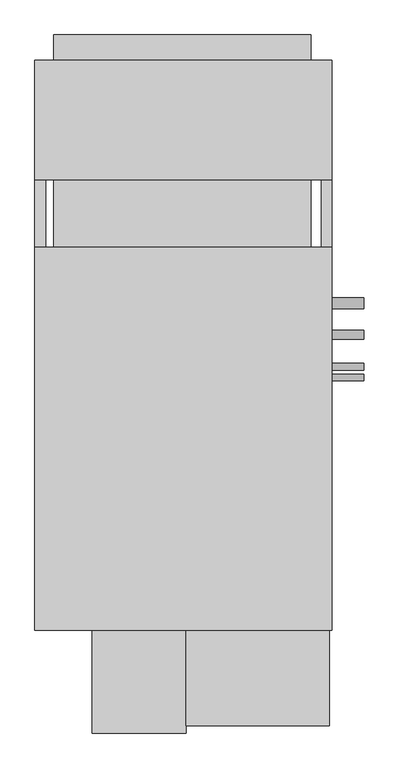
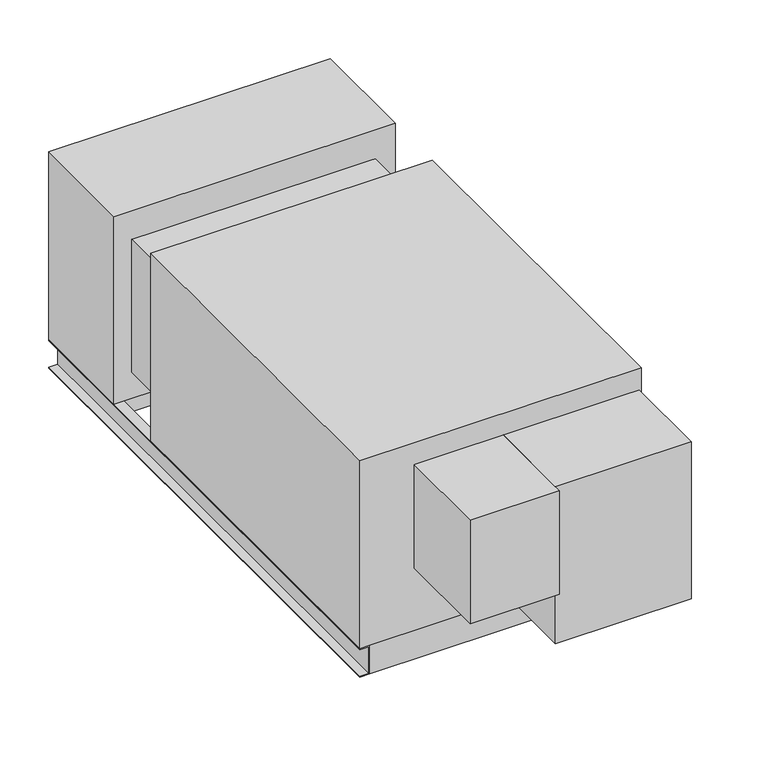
"""IFC4 building model written with IfcOpenShell, lengths in millimetres: proxy geometry, Horizontal_Direct_Drive_Blower_Coil_Unit_-_42DHA_-_CARRIER_-_4-Pipe_NFilterR_W-MixingBox_RH_2022 : Size 06 - 460v/60Hz/3Ph - 6/2 Coil."""

import ifcopenshell
import ifcopenshell.guid

model = None  # the IFC model being written
_history = None  # IfcOwnerHistory: only IFC2X3 demands one
_inside = {}  # id of a spatial element -> (the spatial element, [elements in it])
_under = {}  # id of a project, library or spatial element -> (it, [spatial elements below it])
_declared = {}  # id of a project -> (the project, [libraries it declares])
_typed = {}  # id of a type object -> (the type object, [elements of that type])
_made_of = {}  # id of a material, layer set ... -> (it, [elements and type objects made of it])


def new_model(schema):
    """Start an empty IFC model of exactly this schema.

    Asked for "IFC4X3", IfcOpenShell would pick the latest addendum, in which some entities
    have other attributes; the version numbers below select the first issue.
    IFC2X3 requires an IfcOwnerHistory on every rooted entity: one is made here for all.
    """
    global model, _history
    if schema == "IFC4X3":
        model = ifcopenshell.file(schema_version=(4, 3, 0, 0))
    else:
        model = ifcopenshell.file(schema=schema)
    _inside.clear()
    _under.clear()
    _declared.clear()
    _typed.clear()
    _made_of.clear()
    _history = None
    if model.schema == "IFC2X3":
        org = make("IfcOrganization", Name="unknown")
        user = make(
            "IfcPersonAndOrganization",
            ThePerson=make("IfcPerson", FamilyName="unknown"),
            TheOrganization=org,
        )
        app = make(
            "IfcApplication",
            ApplicationDeveloper=org,
            Version="unknown",
            ApplicationFullName="unknown",
            ApplicationIdentifier="unknown",
        )
        _history = make(
            "IfcOwnerHistory",
            OwningUser=user,
            OwningApplication=app,
            ChangeAction="ADDED",
            CreationDate=0,
        )
    return model


def make(cls, **values):
    """One entity of the class cls with the attributes given. An attribute that is None is left unset."""
    return model.create_entity(
        cls, **{name: value for name, value in values.items() if value is not None}
    )


def rooted(cls, **values):
    """An entity with a GlobalId (a new one), such as an element, a storey or a relation."""
    return make(cls, GlobalId=ifcopenshell.guid.new(), OwnerHistory=_history, **values)


def si_unit(unit_type, name, prefix=None):
    """IfcSIUnit, for example si_unit("LENGTHUNIT", "METRE", prefix="MILLI")."""
    return make("IfcSIUnit", UnitType=unit_type, Prefix=prefix, Name=name)


def assignment(units):
    """IfcUnitAssignment: the units of a project."""
    return None if units is None else make("IfcUnitAssignment", Units=units)


def point(xyz):
    """IfcCartesianPoint."""
    return None if xyz is None else make("IfcCartesianPoint", Coordinates=xyz)


def direction(xyz):
    """IfcDirection."""
    return None if xyz is None else make("IfcDirection", DirectionRatios=xyz)


def frame(location, z_axis=None, x_axis=None):
    """IfcAxis2Placement3D, a coordinate frame: its origin and axes. An axis left out is left unset."""
    return make(
        "IfcAxis2Placement3D",
        Location=point(location),
        Axis=direction(z_axis),
        RefDirection=direction(x_axis),
    )


def frame_2d(location, x_axis=None):
    """IfcAxis2Placement2D, a coordinate frame in the plane: its origin and x axis."""
    return make(
        "IfcAxis2Placement2D", Location=point(location), RefDirection=direction(x_axis)
    )


def origin():
    """The frame at (0, 0, 0) with its axes left unset."""
    return frame((0.0, 0.0, 0.0))


def place(relative_to, where):
    """IfcLocalPlacement: puts the frame where relative to a parent placement (None: the world)."""
    return make(
        "IfcLocalPlacement", PlacementRelTo=relative_to, RelativePlacement=where
    )


def context(
    kind, dimensions, precision=None, world=None, true_north=None, identifier=None
):
    """IfcGeometricRepresentationContext, for example the 3D "Model" context."""
    return make(
        "IfcGeometricRepresentationContext",
        ContextIdentifier=identifier,
        ContextType=kind,
        CoordinateSpaceDimension=dimensions,
        Precision=precision,
        WorldCoordinateSystem=world,
        TrueNorth=true_north,
    )


def project(units=None, contexts=None):
    """IfcProject with its units and contexts."""
    return rooted(
        "IfcProject",
        Name="project",
        RepresentationContexts=contexts,
        UnitsInContext=assignment(units),
    )


def spatial(cls, under=None, at=None, **own):
    """A site, building, storey or space (cls), placed at a placement, below another one or the project."""
    s = rooted(cls, ObjectPlacement=at, **own)
    if under is not None:
        _under.setdefault(under.id(), (under, []))[1].append(s)
    return s


def polyline(points):
    """IfcPolyline through the points."""
    return make("IfcPolyline", Points=[point(p) for p in points])


def circle_curve(where, radius):
    """IfcCircle in the frame where."""
    return make("IfcCircle", Position=where, Radius=radius)


def trimmed(basis, trim1, trim2, sense, master):
    """IfcTrimmedCurve: the piece of a basis curve between two trims."""
    return make(
        "IfcTrimmedCurve",
        BasisCurve=basis,
        Trim1=trim1,
        Trim2=trim2,
        SenseAgreement=sense,
        MasterRepresentation=master,
    )


def segment(curve, same_sense, transition):
    """IfcCompositeCurveSegment."""
    return make(
        "IfcCompositeCurveSegment",
        Transition=transition,
        SameSense=same_sense,
        ParentCurve=curve,
    )


def composite_curve(segments, self_intersect=None):
    """IfcCompositeCurve: segments joined end to end."""
    return make("IfcCompositeCurve", Segments=segments, SelfIntersect=self_intersect)


def outline(outer, holes=None, kind="AREA"):
    """IfcArbitraryClosedProfileDef: a profile drawn as a closed curve; with holes, ...WithVoids."""
    if holes is None:
        return make("IfcArbitraryClosedProfileDef", ProfileType=kind, OuterCurve=outer)
    return make(
        "IfcArbitraryProfileDefWithVoids",
        ProfileType=kind,
        OuterCurve=outer,
        InnerCurves=holes,
    )


def extrude(swept, where, along, depth):
    """IfcExtrudedAreaSolid: the profile swept, set in the frame where, extruded along a direction by depth."""
    return make(
        "IfcExtrudedAreaSolid",
        SweptArea=swept,
        Position=where,
        ExtrudedDirection=direction(along),
        Depth=depth,
    )


def shape(context_of_items, identifier, shape_type, items):
    """IfcShapeRepresentation: the items that make up one representation, for example the "Body"."""
    return make(
        "IfcShapeRepresentation",
        ContextOfItems=context_of_items,
        RepresentationIdentifier=identifier,
        RepresentationType=shape_type,
        Items=items,
    )


def source(mapping_origin, context_of_items, identifier, shape_type, items):
    """IfcRepresentationMap: a shape defined once, which mapped items show again and again."""
    return make(
        "IfcRepresentationMap",
        MappingOrigin=mapping_origin,
        MappedRepresentation=shape(context_of_items, identifier, shape_type, items),
    )


def transform(
    local_origin,
    x_axis=None,
    y_axis=None,
    z_axis=None,
    scale=None,
    scale2=None,
    scale3=None,
    uniform=True,
):
    """IfcCartesianTransformationOperator3D, or its non-uniform kind. x_axis, y_axis, z_axis: its Axis1, 2, 3."""
    if uniform:
        return make(
            "IfcCartesianTransformationOperator3D",
            Axis1=direction(x_axis),
            Axis2=direction(y_axis),
            LocalOrigin=point(local_origin),
            Scale=scale,
            Axis3=direction(z_axis),
        )
    return make(
        "IfcCartesianTransformationOperator3DnonUniform",
        Axis1=direction(x_axis),
        Axis2=direction(y_axis),
        LocalOrigin=point(local_origin),
        Scale=scale,
        Axis3=direction(z_axis),
        Scale2=scale2,
        Scale3=scale3,
    )


def mapped(mapping_source, mapping_target):
    """IfcMappedItem: shows the shape of a source again, moved by a transform."""
    return make(
        "IfcMappedItem", MappingSource=mapping_source, MappingTarget=mapping_target
    )


def made_of(thing, what):
    """Note that an element or type object is made of a material, layer set ...; save() writes the relation."""
    if what is not None:
        _made_of.setdefault(what.id(), (what, []))[1].append(thing)
    return thing


def element(
    cls,
    number,
    at=None,
    inside=None,
    cuts=None,
    type_object=None,
    material=None,
    context=None,
    identifier="Body",
    shape_type=None,
    held_by="IfcProductDefinitionShape",
    body=None,
    shapes=None,
    **own,
):
    """One element of the class cls, such as IfcWall. Its Tag is "e" and its number.

    at: its placement. inside: the storey or other place that contains it. cuts: it is an
    opening in that element (IfcRelVoidsElement). A single representation is given by context,
    identifier, shape_type and body (its items); several are given by shapes. held_by: the class
    of the entity that holds the representations. save() writes the other relations.
    """
    e = rooted(cls, Tag="e%d" % number, ObjectPlacement=at, **own)
    if body is not None:
        shapes = [shape(context, identifier, shape_type, body)]
    if shapes is not None:
        e.Representation = make(held_by, Representations=shapes)
    if inside is not None:
        _inside.setdefault(inside.id(), (inside, []))[1].append(e)
    if cuts is not None:
        rooted(
            "IfcRelVoidsElement", RelatingBuildingElement=cuts, RelatedOpeningElement=e
        )
    if type_object is not None:
        _typed.setdefault(type_object.id(), (type_object, []))[1].append(e)
    return made_of(e, material)


def aggregate(whole, parts):
    """IfcRelAggregates: a whole, such as a stair, and the parts it consists of."""
    return rooted("IfcRelAggregates", RelatingObject=whole, RelatedObjects=parts)


def save(model, path):
    """Write the relations noted so far, then the file.

    IfcRelAggregates (storeys below a building ...), IfcRelContainedInSpatialStructure (elements
    in a storey), IfcRelDefinesByType, IfcRelAssociatesMaterial and IfcRelDeclares: one each for
    every whole, place, type object, material and project.
    """
    for whole, parts in _under.values():
        aggregate(whole, parts)
    for where, things in _inside.values():
        rooted(
            "IfcRelContainedInSpatialStructure",
            RelatedElements=things,
            RelatingStructure=where,
        )
    for kind, things in _typed.values():
        rooted("IfcRelDefinesByType", RelatedObjects=things, RelatingType=kind)
    for what, things in _made_of.values():
        rooted("IfcRelAssociatesMaterial", RelatedObjects=things, RelatingMaterial=what)
    for by, libraries in _declared.values():
        rooted("IfcRelDeclares", RelatingContext=by, RelatedDefinitions=libraries)
    model.write(path)


def mechanical_equipment_db932000(model_context):
    return source(origin(), model_context, "Body", "SweptSolid", [
        extrude(outline(polyline([(-406.4, 837.565), (-406.4, 685.165), (-1022.35, 685.165), (-1022.35, 837.565), (-406.4, 837.565)])), frame((0.0, 0.0, -562.61), z_axis=(0.0, 0.0, 1.0), x_axis=(1.0, 0.0, 0.0)), (0.0, 0.0, 1.0), 60.96),
        extrude(outline(polyline([(-1022.35, 1000.125), (-406.4, 1000.125), (-406.4, 939.165), (-1022.35, 939.165), (-1022.35, 1000.125)])), frame((0.0, 0.0, -228.6), z_axis=(0.0, 0.0, 1.0), x_axis=(1.0, 0.0, 0.0)), (0.0, 0.0, 1.0), 152.4),
        extrude(outline(polyline([(-355.6, 939.165), (-355.6, 654.05), (-1066.8, 654.05), (-1066.8, 939.165), (-355.6, 939.165)])), frame((0.0, 0.0, -501.65), z_axis=(0.0, 0.0, 1.0), x_axis=(1.0, 0.0, 0.0)), (0.0, 0.0, 1.0), 501.65),
        extrude(outline(polyline([(-381.0, -396.875), (-381.0, -422.275), (-1041.4, -422.275), (-1041.4, -396.875), (-381.0, -396.875)])), frame((0.0, 0.0, -577.85), z_axis=(0.0, 0.0, 1.0), x_axis=(1.0, 0.0, 0.0)), (0.0, 0.0, 1.0), 76.2),
        extrude(outline(polyline([(-381.0, 939.165), (-381.0, 913.765), (-1041.4, 913.765), (-1041.4, 939.165), (-381.0, 939.165)])), frame((0.0, 0.0, -577.85), z_axis=(0.0, 0.0, 1.0), x_axis=(1.0, 0.0, 0.0)), (0.0, 0.0, 1.0), 76.2),
        extrude(outline(polyline([(-501.65, -1041.4), (-501.65, -1066.8), (-504.825, -1066.8), (-504.825, -1044.575), (-574.675, -1044.575), (-574.675, -1066.8), (-577.85, -1066.8), (-577.85, -1041.4), (-501.65, -1041.4)])), frame((0.0, -422.275, 0.0), z_axis=(0.0, 1.0, 0.0), x_axis=(0.0, 0.0, 1.0)), (0.0, 0.0, 1.0), 1361.44),
        extrude(outline(polyline([(-501.65, -381.0), (-577.85, -381.0), (-577.85, -355.6), (-574.675, -355.6), (-574.675, -377.825), (-504.825, -377.825), (-504.825, -355.6), (-501.65, -355.6), (-501.65, -381.0)])), frame((0.0, -422.275, 0.0), z_axis=(0.0, 1.0, 0.0), x_axis=(0.0, 0.0, 1.0)), (0.0, 0.0, 1.0), 1361.44),
        extrude(outline(composite_curve([segment(trimmed(circle_curve(frame_2d((358.775, -177.8)), 12.7), [point((371.475, -177.8))], [point((346.075, -177.8))], False, "CARTESIAN"), True, "CONTINUOUS"), segment(trimmed(circle_curve(frame_2d((358.775, -177.8)), 12.7), [point((346.075, -177.8))], [point((371.475, -177.8))], False, "CARTESIAN"), True, "CONTINUOUS")], self_intersect=False)), frame((-355.6, 0.0, 0.0), z_axis=(1.0, 0.0, 0.0), x_axis=(0.0, 1.0, 0.0)), (0.0, 0.0, 1.0), 76.2),
        extrude(outline(composite_curve([segment(trimmed(circle_curve(frame_2d((359.642288, -374.65)), 12.7), [point((372.342288, -374.65))], [point((346.942288, -374.65))], False, "CARTESIAN"), True, "CONTINUOUS"), segment(trimmed(circle_curve(frame_2d((359.642288, -374.65)), 12.7), [point((346.942288, -374.65))], [point((372.342288, -374.65))], False, "CARTESIAN"), True, "CONTINUOUS")], self_intersect=False)), frame((-355.6, 0.0, 0.0), z_axis=(1.0, 0.0, 0.0), x_axis=(0.0, 1.0, 0.0)), (0.0, 0.0, 1.0), 76.2),
        extrude(outline(composite_curve([segment(trimmed(circle_curve(frame_2d((283.442288, -457.2)), 11.1125), [point((294.554788, -457.2))], [point((272.329788, -457.2))], False, "CARTESIAN"), True, "CONTINUOUS"), segment(trimmed(circle_curve(frame_2d((283.442288, -457.2)), 11.1125), [point((272.329788, -457.2))], [point((294.554788, -457.2))], False, "CARTESIAN"), True, "CONTINUOUS")], self_intersect=False)), frame((-355.6, 0.0, 0.0), z_axis=(1.0, 0.0, 0.0), x_axis=(0.0, 1.0, 0.0)), (0.0, 0.0, 1.0), 76.2),
        extrude(outline(composite_curve([segment(trimmed(circle_curve(frame_2d((207.242288, -228.6)), 7.9375), [point((215.179788, -228.6))], [point((199.304788, -228.6))], False, "CARTESIAN"), True, "CONTINUOUS"), segment(trimmed(circle_curve(frame_2d((207.242288, -228.6)), 7.9375), [point((199.304788, -228.6))], [point((215.179788, -228.6))], False, "CARTESIAN"), True, "CONTINUOUS")], self_intersect=False)), frame((-355.6, 0.0, 0.0), z_axis=(1.0, 0.0, 0.0), x_axis=(0.0, 1.0, 0.0)), (0.0, 0.0, 1.0), 76.2),
        extrude(outline(composite_curve([segment(trimmed(circle_curve(frame_2d((181.842288, -324.1292556)), 7.9375), [point((189.779788, -324.1292556))], [point((173.904788, -324.1292556))], False, "CARTESIAN"), True, "CONTINUOUS"), segment(trimmed(circle_curve(frame_2d((181.842288, -324.1292556)), 7.9375), [point((173.904788, -324.1292556))], [point((189.779788, -324.1292556))], False, "CARTESIAN"), True, "CONTINUOUS")], self_intersect=False)), frame((-355.6, 0.0, 0.0), z_axis=(1.0, 0.0, 0.0), x_axis=(0.0, 1.0, 0.0)), (0.0, 0.0, 1.0), 76.2),
        extrude(outline(polyline([(-355.6, 492.125), (-355.6, -422.275), (-1066.8, -422.275), (-1066.8, 492.125), (-355.6, 492.125)])), frame((0.0, 0.0, -501.65), z_axis=(0.0, 0.0, 1.0), x_axis=(1.0, 0.0, 0.0)), (0.0, 0.0, 1.0), 501.65),
        extrude(outline(polyline([(-361.95, -650.875), (-704.85, -650.875), (-704.85, -422.275), (-361.95, -422.275), (-361.95, -650.875)])), frame((0.0, 0.0, -476.25), z_axis=(0.0, 0.0, 1.0), x_axis=(1.0, 0.0, 0.0)), (0.0, 0.0, 1.0), 419.1),
        extrude(outline(polyline([(-1022.35, 654.05), (-406.4, 654.05), (-406.4, 492.125), (-1022.35, 492.125), (-1022.35, 654.05)])), frame((0.0, 0.0, -431.8), z_axis=(0.0, 0.0, 1.0), x_axis=(1.0, 0.0, 0.0)), (0.0, 0.0, 1.0), 355.6),
        extrude(outline(polyline([(-704.85, -668.3375), (-930.275, -668.3375), (-930.275, -422.275), (-704.85, -422.275), (-704.85, -668.3375)])), frame((0.0, 0.0, -333.375), z_axis=(0.0, 0.0, 1.0), x_axis=(1.0, 0.0, 0.0)), (0.0, 0.0, 1.0), 276.225),
    ])


if __name__ == "__main__":
    model = new_model("IFC4")
    model_context = context("Model", 3, world=origin())
    ifc_project = project(units=[si_unit("LENGTHUNIT", "METRE", prefix="MILLI")], contexts=[model_context])
    site = spatial("IfcSite", under=ifc_project)
    building = spatial("IfcBuilding", under=site)
    placement = place(None, origin())
    mechanical_equipment_shape = mechanical_equipment_db932000(model_context)
    element("IfcBuildingElementProxy", 1, Name="Horizontal_Direct_Drive_Blower_Coil_Unit_-_42DHA_-_CARRIER_-_4-Pipe_NFilterR_W-MixingBox_RH_2022 : Size 06 - 460v/60Hz/3Ph - 6/2 Coil", ObjectType="Horizontal_Direct_Drive_Blower_Coil_Unit_-_42DHA_-_CARRIER_-_4-Pipe_NFilterR_W-MixingBox_RH_2022 : Size 06 - 460v/60Hz/3Ph - 6/2 Coil", at=placement, inside=building, context=model_context, shape_type="MappedRepresentation", body=[
        mapped(mechanical_equipment_shape, transform((0.0, 0.0, 0.0), x_axis=(1.0, 0.0, 0.0), y_axis=(0.0, 1.0, 0.0), z_axis=(0.0, 0.0, 1.0))),
    ])
    save(model, "model.ifc")
